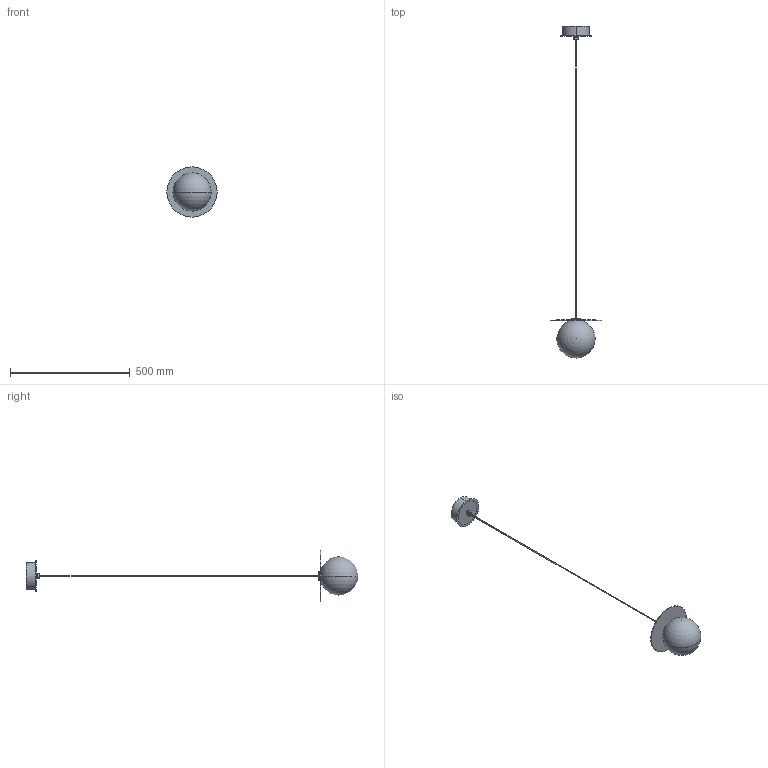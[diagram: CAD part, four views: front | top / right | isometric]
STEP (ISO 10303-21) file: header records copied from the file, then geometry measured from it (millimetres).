
FILE_DESCRIPTION (( 'STEP AP203' ), '1' );
FILE_NAME ('SPKI1601XXXXXXX-PER 3D.STEP', '2025-06-25T08:50:42', ( '' ), ( '' ), 'SwSTEP 2.0', 'SolidWorks 2024', '' );
FILE_SCHEMA (( 'CONFIG_CONTROL_DESIGN' ));
Length unit declared in the file: millimetre
Products named in the file (10): WSVAXXX0160BC7XX00; WSCM2C0200-0700-03_WSCM2C0200-0700-03; SPKI1601XXXXXXX-PER 3D; WSCM2F0011-0100-01_Default<按加工>; WSCM2A0157-0200-00; PENDENTE SPKI1601-00; WSCM2C0047-0100-00; WSCM2A0156-0700-01; WSASS-000000061-00; CAVO NL2CN
Assembly tree (9 placements, depth 3):
  SPKI1601XXXXXXX-PER 3D
    PENDENTE SPKI1601-00
      WSCM2C0200-0700-03_WSCM2C0200-0700-03
      WSVAXXX0160BC7XX00
      CAVO NL2CN
      WSCM2A0156-0700-01
    WSASS-000000061-00
      WSCM2F0011-0100-01_Default<按加工>
      WSCM2C0047-0100-00
      WSCM2A0157-0200-00
Bounding box: 210 x 1388.19 x 210 mm (x, y, z)
Volume: 371500.1 mm3; surface area: 318531.7 mm2
Topology: 8 solids, 8 shells, 128 faces, 286 edges, 174 vertices
Faces by surface type: cylinder 50, plane 38, cone 32, sphere 4, torus 4
Entity records: 4596 total; most frequent: DIRECTION 702, CARTESIAN_POINT 586, ORIENTED_EDGE 552, AXIS2_PLACEMENT_3D 284, EDGE_CURVE 276, VERTEX_POINT 168, EDGE_LOOP 154, CIRCLE 142
